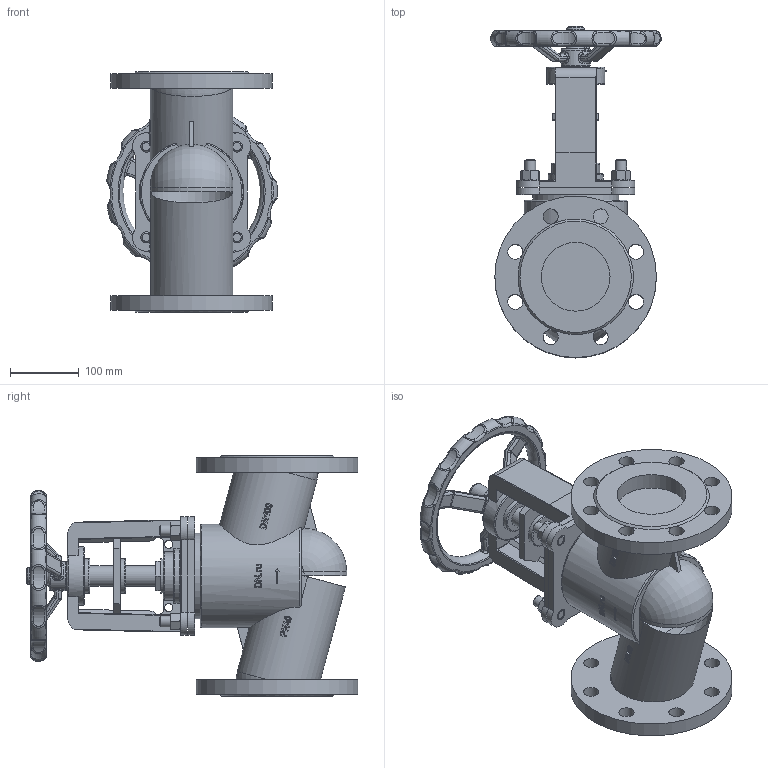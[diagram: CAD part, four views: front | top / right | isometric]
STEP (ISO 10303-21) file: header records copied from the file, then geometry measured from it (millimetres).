
FILE_DESCRIPTION(('STEP AP242'), '1');
FILE_NAME('VSO2130M-F-S 孰囡囗 玎镱痦 DN.ru 捏100 畜40', '2026-04-28T00:24:51', ('DN.ru'), (''), 'C3D Converter', 'C3D Toolkit', '');
FILE_SCHEMA(('AP242_MANAGED_MODEL_BASED_3D_ENGINEERING_MIM_LF { 1 0 10303 442 1 1 4 }'));
Length unit declared in the file: millimetre
Products named in the file (1): VSO2130M-F-S
Bounding box: 248.21 x 482.57 x 350 mm (x, y, z)
Volume: 7684882.2 mm3; surface area: 707922.8 mm2
Topology: 1 solids, 1 shells, 964 faces, 2454 edges, 1520 vertices
Faces by surface type: plane 288, extrusion 224, cylinder 195, torus 117, sphere 65, bspline 56, cone 19
Full cylindrical faces by diameter (mm): 0.5 x1, 1 x1, 2 x2, 12 x2, 16 x12, 22 x16, 25.35 x1, 30 x3, 42.25 x1, 50 x4, 85 x1, 100 x2, 120 x2, 125 x1, 150 x1, 235 x2
Entity records: 72885 total; most frequent: CARTESIAN_POINT 43771, ORIENTED_EDGE 4628, DIRECTION 3771, EDGE_CURVE 2314, VERTEX_POINT 1496, AXIS2_PLACEMENT_3D 1362, EDGE_LOOP 1158, VECTOR 1047
